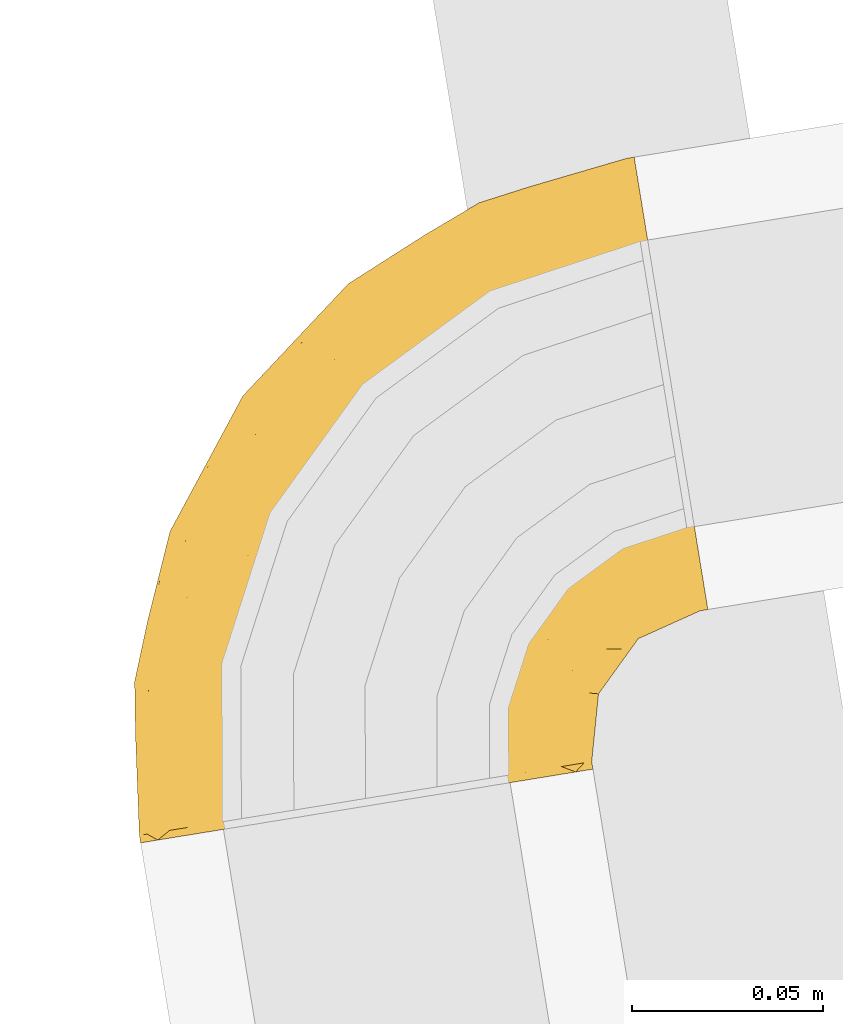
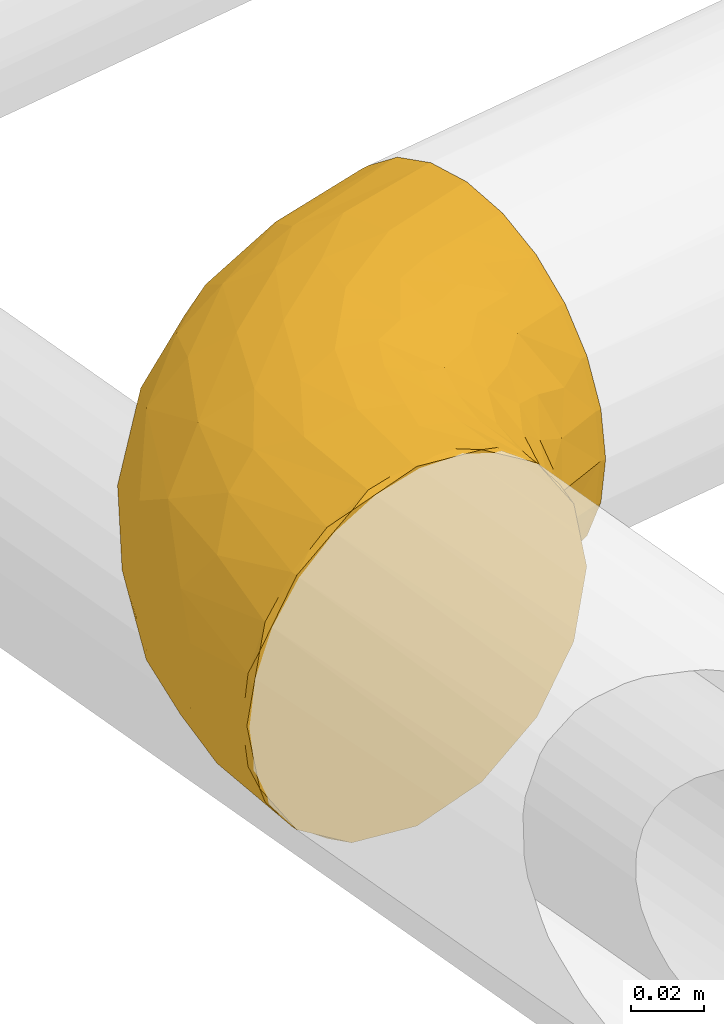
# One storey, part 13 of 46: 1 covering.
"""IFC2X3 building model written with IfcOpenShell, lengths in millimetres."""

from ifc_helpers import new_model, entity, si_unit, converted_unit, derived_unit, direction, frame, origin, origin_with_axes, place, context, subcontext, project, spatial, faceted_brep, material, type_object, element, save


model = new_model("IFC2X3")

# Units and contexts
model_context = context("Model", 3, precision=0.01, world=origin(), true_north=direction((6.12323399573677e-17, 1.0)))
plan_context = context("Plan", 3, precision=1e-05, world=origin_with_axes())
body_context = subcontext(model_context, "Body", "Model", "MODEL_VIEW")
ifc_project = project(units=[converted_unit("PLANEANGLEUNIT", "DEGREE", entity("IfcPositiveLengthMeasure", 0.0174532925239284), si_unit("PLANEANGLEUNIT", "RADIAN"), dimensions=[0, 0, 0, 0, 0, 0, 0]), si_unit("AREAUNIT", "SQUARE_METRE"), si_unit("LENGTHUNIT", "METRE", prefix="MILLI"), si_unit("MASSUNIT", "GRAM", prefix="KILO"), si_unit("POWERUNIT", "WATT"), si_unit("PRESSUREUNIT", "PASCAL", prefix="KILO"), si_unit("FORCEUNIT", "NEWTON", prefix="KILO"), si_unit("ELECTRICVOLTAGEUNIT", "VOLT"), si_unit("ELECTRICCURRENTUNIT", "AMPERE"), si_unit("THERMODYNAMICTEMPERATUREUNIT", "DEGREE_CELSIUS"), si_unit("TIMEUNIT", "SECOND"), si_unit("VOLUMEUNIT", "CUBIC_METRE"), derived_unit("LINEARVELOCITYUNIT", [(si_unit("LENGTHUNIT", "METRE"), 1), (si_unit("TIMEUNIT", "SECOND"), -1)]), derived_unit("VOLUMETRICFLOWRATEUNIT", [(si_unit("VOLUMEUNIT", "CUBIC_METRE"), 1), (si_unit("TIMEUNIT", "SECOND"), -1)]), derived_unit("THERMALTRANSMITTANCEUNIT", [(si_unit("POWERUNIT", "WATT"), 1), (si_unit("THERMODYNAMICTEMPERATUREUNIT", "KELVIN"), -1), (si_unit("AREAUNIT", "SQUARE_METRE"), -1)]), derived_unit("SOUNDPRESSUREUNIT", [(si_unit("PRESSUREUNIT", "PASCAL"), 1)])], contexts=[model_context, plan_context])

# Site, building, storey
site_placement = place(None, frame((-3.09682673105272e-06, 1.93776733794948e-05, 0.0), z_axis=(0.0, 0.0, 1.0), x_axis=(-0.160806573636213, 0.986985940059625, 0.0)))
site = spatial("IfcSite", under=ifc_project, at=site_placement, Name="Default", CompositionType="ELEMENT")
building_placement = place(site_placement, frame((0.0, 0.0, 0.0), z_axis=(0.0, 0.0, 1.0), x_axis=(1.0, -2.77555756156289e-17, 0.0)))
building = spatial("IfcBuilding", under=site, at=building_placement, Name="Bygning (endres i Project Information)", CompositionType="ELEMENT")
storey_placement = place(building_placement, frame((0.0, 0.0, 51360.0000000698), z_axis=(0.0, 0.0, 1.0), x_axis=(1.0, -2.77555756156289e-17, 0.0)))
storey = spatial("IfcBuildingStorey", under=building, at=storey_placement, Name="H01-Nivå D+0,36", CompositionType="ELEMENT", Elevation=51360.0000000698)

# Covering
ifc_material = material(Name="3700.001 Retur")
covering_type = type_object("IfcCoveringType", Name="Pipe Insulation:GLAVA avløpsisol. slange økende 19mm (15,5-25,0)", PredefinedType="INSULATION")
covering_placement = place(storey_placement, frame((999606.867642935, -347103.899155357, 3378.35472776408), z_axis=(0.0, 0.0, 1.0), x_axis=(1.0, -2.77555756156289e-17, 0.0)))
element("IfcCovering", 1, at=covering_placement, inside=storey, type_object=covering_type, material=ifc_material, Name="Pipe Insulation:GLAVA avløpsisol. slange økende 19mm (15,5-25,0)", ObjectType="Pipe Insulation:GLAVA avløpsisol. slange økende 19mm (15,5-25,0)", PredefinedType="INSULATION", context=body_context, shape_type="Brep", body=[
    faceted_brep([(0.0, 129.220951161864, 110.615636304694), (0.0, 138.961762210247, 104.107034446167), (0.0, 145.470364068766, 94.3662233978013), (0.0, 151.978965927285, 84.6254123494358), (0.0, 154.264482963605, 73.1353422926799), (0.0, 156.549999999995, 61.6452722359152), (0.0, 154.264482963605, 50.1552021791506), (0.0, 151.978965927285, 38.6651321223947), (0.0, 145.470364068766, 28.9243210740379), (0.0, 138.961762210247, 19.1835100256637), (0.0, 129.220951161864, 12.6749081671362), (0.0, 119.480140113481, 6.16630630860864), (0.0, 107.990070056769, 3.88078927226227), (0.0, 96.4999999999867, 1.5952722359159), (0.0, 85.0099299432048, 3.88078927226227), (0.0, 73.5198598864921, 6.16630630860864), (0.0, 63.7790488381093, 12.6749081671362), (0.0, 54.0382377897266, 19.1835100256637), (0.0, 47.5296359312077, 28.9243210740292), (0.0, 41.0210340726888, 38.6651321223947), (0.0, 38.7355170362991, 50.1552021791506), (0.0, 36.4499999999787, 61.6452722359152), (0.0, 38.7355170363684, 73.1353422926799), (0.0, 41.0210340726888, 84.6254123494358), (0.0, 47.5296359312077, 94.3662233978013), (0.0, 54.0382377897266, 104.107034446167), (0.0, 63.7790488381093, 110.615636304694), (0.0, 73.5198598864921, 117.124238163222), (0.0, 85.0099299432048, 119.409755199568), (0.0, 96.4999999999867, 121.695272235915), (0.0, 107.990070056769, 119.409755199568), (0.0, 119.480140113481, 117.124238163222), (154.503845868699, 0.0, 46.1031885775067), (155.449472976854, 0.0, 53.2859395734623), (156.550000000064, 0.0, 61.6452722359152), (155.526922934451, 0.0, 69.4163140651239), (154.503845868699, 0.0, 77.1873558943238), (151.504335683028, 0.0, 84.4288140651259), (148.504825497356, 0.0, 91.6702722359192), (143.733293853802, 0.0, 97.8886533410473), (138.961762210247, 0.0, 104.107034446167), (132.743381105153, 0.0, 108.87856608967), (126.52500000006, 0.0, 113.650097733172), (119.283541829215, 0.0, 116.649607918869), (112.042083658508, 0.0, 119.649118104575), (104.859332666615, 0.0, 120.59474521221), (96.500000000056, 0.0, 121.695272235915), (88.7289581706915, 0.0, 120.672195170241), (80.9579163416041, 0.0, 119.649118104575), (73.7164581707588, 0.0, 116.649607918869), (66.475000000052, 0.0, 113.650097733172), (60.2566188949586, 0.0, 108.87856608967), (54.0382377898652, 0.0, 104.107034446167), (49.2667061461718, 0.0, 97.8886533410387), (44.4951745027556, 0.0, 91.6702722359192), (41.4956643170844, 0.0, 84.4288140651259), (38.4961541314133, 0.0, 77.1873558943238), (37.5505270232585, 0.0, 70.0046048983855), (36.450000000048, 0.0, 61.6452722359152), (37.4730770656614, 0.0, 53.8742304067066), (38.4961541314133, 0.0, 46.1031885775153), (41.4956643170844, 0.0, 38.8617304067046), (44.4951745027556, 0.0, 31.6202722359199), (49.2667061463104, 0.0, 25.4018911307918), (54.0382377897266, 0.0, 19.1835100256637), (60.25661889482, 0.0, 14.4119783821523), (66.475000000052, 0.0, 9.64044673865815), (73.7164581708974, 0.0, 6.64093655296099), (80.9579163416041, 0.0, 3.64142636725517), (88.140667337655, 0.0, 2.6957992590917), (96.500000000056, 0.0, 1.5952722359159), (104.271041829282, 0.0, 2.61834930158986), (112.042083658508, 0.0, 3.64142636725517), (119.283541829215, 0.0, 6.64093655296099), (126.52500000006, 0.0, 9.64044673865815), (132.743381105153, 0.0, 14.4119783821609), (138.961762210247, 0.0, 19.1835100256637), (143.733293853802, 0.0, 25.4018911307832), (148.504825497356, 0.0, 31.6202722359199), (151.504335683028, 0.0, 38.8617304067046), (154.503845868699, 2.0, 77.1873558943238), (156.550000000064, 2.0, 61.6452722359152), (155.449472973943, 2.0, 70.0046049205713), (148.504825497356, 2.0, 91.6702722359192), (151.504335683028, 2.0, 84.4288140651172), (143.733293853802, 2.0, 97.8886533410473), (138.961762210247, 2.0, 104.107034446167), (126.52500000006, 2.0, 113.650097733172), (132.743381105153, 2.0, 108.87856608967), (112.042083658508, 2.0, 119.649118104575), (119.283541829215, 2.0, 116.649607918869), (104.271041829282, 2.0, 120.672195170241), (96.500000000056, 2.0, 121.695272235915), (88.1406673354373, 2.0, 120.594745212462), (85.8750124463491, 2.0, 120.296466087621), (80.9579163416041, 2.0, 119.649118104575), (66.475000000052, 2.0, 113.650097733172), (73.7164581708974, 2.0, 116.649607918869), (60.2566188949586, 2.0, 108.87856608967), (54.0382377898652, 2.0, 104.107034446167), (44.4951745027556, 2.0, 91.6702722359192), (49.2667061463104, 2.0, 97.8886533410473), (38.4961541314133, 2.0, 77.1873558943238), (41.4956643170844, 2.0, 84.4288140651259), (37.4730770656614, 2.0, 69.4163140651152), (36.450000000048, 2.0, 61.6452722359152), (38.4961541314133, 2.0, 46.1031885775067), (37.5505270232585, 2.0, 53.2859395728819), (44.4951745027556, 2.0, 31.6202722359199), (41.4956643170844, 2.0, 38.8617304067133), (49.2667061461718, 2.0, 25.4018911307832), (54.0382377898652, 2.0, 19.1835100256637), (66.475000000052, 2.0, 9.64044673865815), (60.2566188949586, 2.0, 14.4119783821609), (80.9579163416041, 2.0, 3.64142636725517), (73.7164581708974, 2.0, 6.64093655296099), (85.8750124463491, 2.0, 2.99407838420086), (88.7289581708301, 2.0, 2.61834930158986), (96.500000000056, 2.0, 1.5952722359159), (112.042083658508, 2.0, 3.64142636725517), (104.859332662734, 2.0, 2.69579925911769), (126.52500000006, 2.0, 9.64044673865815), (119.283541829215, 2.0, 6.64093655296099), (132.743381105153, 2.0, 14.4119783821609), (138.961762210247, 2.0, 19.1835100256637), (148.504825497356, 2.0, 31.6202722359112), (143.733293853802, 2.0, 25.4018911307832), (154.503845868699, 2.0, 46.1031885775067), (151.504335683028, 2.0, 38.8617304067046), (155.526922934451, 2.0, 53.8742304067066), (42.0004834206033, 151.283836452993, 61.6452722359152), (28.4061816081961, 153.288940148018, 72.4161841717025), (66.8176923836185, 140.648176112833, 74.9782039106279), (151.283836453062, 42.000483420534, 61.6452722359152), (153.28894006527, 28.4061821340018, 72.4161841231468), (138.43438143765, 65.664162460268, 83.1765166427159), (134.144438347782, 61.5566816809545, 94.222417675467), (148.119588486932, 38.9846814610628, 82.7275564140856), (142.732214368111, 29.8044788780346, 96.4252457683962), (103.18456402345, 62.1059187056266, 117.036665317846), (118.904536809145, 43.2804897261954, 113.961629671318), (116.677739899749, 69.8762938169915, 107.511164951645), (100.860670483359, 109.624365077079, 92.2961559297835), (122.592591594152, 93.8575830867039, 80.2573725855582), (94.5183470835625, 123.241838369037, 77.1652546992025), (94.1873799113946, 53.2047729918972, 120.687826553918), (79.0255659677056, 79.0255650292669, 119.935582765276), (78.4521059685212, 57.5457063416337, 121.695272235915), (130.738697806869, 39.4121865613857, 106.818747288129), (116.8582589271, 85.9725505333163, 98.0183861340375), (111.283353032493, 111.283353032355, 61.6452722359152), (79.2750000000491, 135.844226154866, 61.6452722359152), (135.844226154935, 79.2749999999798, 61.6452722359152), (109.248734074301, 33.1085428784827, 119.188453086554), (62.1059203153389, 103.184562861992, 117.036665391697), (88.1401035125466, 88.1401014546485, 115.120432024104), (85.1634733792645, 44.3739061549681, 121.695272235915), (91.8748407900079, 31.2021059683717, 121.695272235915), (145.293239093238, 57.3185911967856, 72.2819566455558), (39.4121875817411, 130.738696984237, 106.81874773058), (69.8762968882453, 116.677737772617, 107.511165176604), (61.5566846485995, 134.144435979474, 94.2224191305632), (38.9846813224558, 148.119588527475, 82.7275563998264), (2.0, 154.503845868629, 77.1873558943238), (2.0, 151.504335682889, 84.4288140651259), (2.0, 148.504825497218, 91.6702722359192), (29.8044794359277, 142.732213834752, 96.425246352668), (2.0, 143.733293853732, 97.8886533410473), (2.0, 138.961762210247, 104.107034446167), (2.0, 156.549999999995, 61.6452722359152), (2.0, 155.526922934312, 69.4163140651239), (43.2804911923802, 118.904535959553, 113.961629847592), (2.0, 126.524999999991, 113.650097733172), (2.0, 119.283541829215, 116.649607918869), (2.0, 112.042083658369, 119.649118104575), (2.0, 132.743381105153, 108.87856608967), (57.545706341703, 78.4521059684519, 121.695272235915), (67.9989061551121, 67.9989061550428, 121.695272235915), (53.2047737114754, 94.1873794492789, 120.687826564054), (33.1085435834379, 109.248733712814, 119.188453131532), (31.2021059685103, 91.8748407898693, 121.695272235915), (2.0, 96.4999999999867, 121.695272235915), (14.796615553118, 94.4732152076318, 121.695272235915), (44.3739061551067, 85.1634733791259, 121.695272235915), (76.0964222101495, 132.27747936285, 84.8749327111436), (2.0, 104.271041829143, 120.672195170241), (97.6322626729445, 97.632258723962, 105.757550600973), (94.4732153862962, 14.7966144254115, 121.695272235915), (26.3881555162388, 37.6410747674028, 92.8369498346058), (19.8213005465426, 34.0749834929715, 77.9055273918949), (30.495068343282, 28.0667583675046, 83.6303098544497), (79.6755573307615, 16.0282072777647, 119.642205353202), (77.7956794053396, 29.5164396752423, 120.072900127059), (41.3921957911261, 10.6116860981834, 87.5451559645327), (51.2599985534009, 19.0628082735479, 104.200031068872), (39.3569033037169, 21.7229416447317, 91.2304823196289), (66.4255659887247, 27.3599081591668, 116.12269221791), (61.7611370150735, 39.666857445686, 116.752099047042), (57.3979050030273, 28.2283372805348, 111.67835539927), (73.6921423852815, 42.1136087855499, 120.41189913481), (59.8559552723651, 53.275038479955, 119.181509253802), (11.1054589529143, 52.727726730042, 103.601291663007), (21.0489355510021, 51.2360169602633, 104.848123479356), (18.495195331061, 59.4763453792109, 110.652106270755), (2.0, 88.7289581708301, 120.672195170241), (2.0, 85.8750125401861, 120.2964661), (2.0, 80.9579163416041, 119.649118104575), (69.7763679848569, 16.1927958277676, 116.127021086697), (60.2362581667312, 14.693483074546, 110.514916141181), (35.2954551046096, 16.4668027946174, 76.4459559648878), (35.1684660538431, 31.5509659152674, 94.7858946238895), (35.474407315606, 42.5961267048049, 104.678316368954), (13.4287309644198, 41.1395158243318, 88.4690949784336), (2.0, 44.4951745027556, 91.6702722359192), (2.0, 41.4956643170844, 84.4288140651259), (2.0, 38.496154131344, 77.1873558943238), (54.7534216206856, 65.3961824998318, 120.478795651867), (29.8078963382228, 66.6759720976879, 116.647334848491), (44.0771599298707, 71.9580007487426, 120.30145030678), (27.0781928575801, 78.5096110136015, 120.044050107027), (29.7714545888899, 57.492677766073, 112.175020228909), (16.2064688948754, 82.4821351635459, 120.320962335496), (2.0, 66.4749999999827, 113.650097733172), (16.1340663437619, 67.9157141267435, 115.239613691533), (2.0, 54.0382377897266, 104.107034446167), (48.9737177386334, 37.4968626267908, 109.988197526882), (43.94479507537, 28.5809695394, 101.585160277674), (10.612500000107, 34.1422875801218, 61.6452722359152), (11.3511933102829, 37.5973450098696, 78.2976487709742), (40.6154890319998, 53.6128492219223, 113.641213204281), (39.3574666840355, 62.9326956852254, 117.104758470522), (2.0, 36.4499999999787, 61.6452722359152), (25.5297875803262, 25.5297875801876, 61.6452722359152), (19.2250000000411, 31.8345751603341, 61.6452722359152), (29.823229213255, 23.9458716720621, 72.4858684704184), (31.8345751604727, 19.2249999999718, 61.6452722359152), (2.0, 60.25661889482, 108.87856608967), (2.0, 49.2667061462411, 97.8886533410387), (2.0, 73.7164581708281, 116.649607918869), (2.0, 37.4730770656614, 69.4163140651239), (51.2599985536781, 19.0628082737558, 19.0905134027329), (41.3921957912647, 10.6116860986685, 35.7453885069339), (35.2954551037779, 16.4668027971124, 46.8445885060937), (79.6755573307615, 16.028207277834, 3.64833911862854), (94.4732153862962, 14.7966144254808, 1.5952722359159), (57.545706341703, 78.4521059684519, 1.5952722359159), (54.7534299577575, 65.3961907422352, 2.81174643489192), (44.0771578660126, 71.9580001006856, 2.98909452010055), (19.8213005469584, 34.0749834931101, 45.3850170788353), (26.3881555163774, 37.6410747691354, 30.4535946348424), (30.495068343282, 28.0667583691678, 39.6602346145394), (60.6680970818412, 14.4208560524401, 12.5170794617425), (70.3948101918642, 16.8876246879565, 6.8221522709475), (66.4255659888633, 27.3599081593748, 7.16785225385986), (73.6921423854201, 42.1136087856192, 2.87864533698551), (78.4327232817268, 30.0434207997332, 3.03824146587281), (91.8748407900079, 31.2021059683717, 1.5952722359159), (43.9447950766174, 28.5809695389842, 21.7053841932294), (35.4744037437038, 42.596120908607, 18.6122346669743), (48.9737177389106, 37.4968626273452, 13.3023469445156), (35.1684660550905, 31.5509659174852, 28.5046498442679), (39.3569033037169, 21.7229416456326, 32.0600621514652), (26.140148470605, 28.092672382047, 50.2206672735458), (67.9989061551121, 67.9989061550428, 1.5952722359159), (59.8559490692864, 53.2750496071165, 4.10903439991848), (11.3511933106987, 37.5973450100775, 44.9928956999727), (14.7966155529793, 94.4732152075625, 1.5952722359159), (2.0, 80.9579163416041, 3.64142636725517), (2.0, 85.8750125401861, 2.99407837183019), (2.0, 88.7289581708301, 2.61834930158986), (2.0, 96.4999999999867, 1.5952722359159), (40.6154761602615, 53.6128377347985, 9.64934103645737), (18.4951987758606, 59.4763438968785, 12.638438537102), (2.0, 54.0382377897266, 19.1835100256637), (16.134063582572, 67.9157049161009, 8.05093562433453), (2.0, 60.25661889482, 14.4119783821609), (2.0, 66.4749999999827, 9.64044673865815), (27.0781868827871, 78.5096049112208, 3.2464961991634), (29.8078959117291, 66.6759627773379, 6.64321344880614), (21.0489258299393, 51.2360176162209, 18.4424237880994), (29.7714523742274, 57.4926701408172, 11.1155292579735), (61.7611302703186, 39.66686114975, 6.53844704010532), (31.2021059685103, 91.8748407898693, 1.5952722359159), (16.2064688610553, 82.482134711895, 2.96958223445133), (44.3739061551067, 85.1634733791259, 1.5952722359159), (11.1054582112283, 52.7277319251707, 19.6892477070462), (13.428730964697, 41.1395158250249, 34.8214494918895), (2.0, 38.496154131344, 46.1031885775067), (2.0, 41.4956643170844, 38.8617304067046), (2.0, 44.4951745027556, 31.6202722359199), (57.3979048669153, 28.2283378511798, 11.6121889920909), (78.4521059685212, 57.5457063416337, 1.5952722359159), (2.0, 37.4730770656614, 53.8742304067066), (39.3574747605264, 62.9326857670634, 6.18578775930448), (2.0, 73.7164581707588, 6.64093655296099), (2.0, 49.2667061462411, 25.4018911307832), (85.1634733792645, 44.3739061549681, 1.5952722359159), (94.1873799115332, 53.2047729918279, 2.60271791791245), (61.5566846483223, 134.144435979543, 29.0681253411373), (85.9725557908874, 116.858254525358, 25.2721577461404), (69.8762968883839, 116.67773777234, 15.7793792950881), (38.9846813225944, 148.119588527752, 40.5629880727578), (2.0, 148.504825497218, 31.6202722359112), (2.0, 151.504335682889, 38.8617304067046), (2.0, 154.503845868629, 46.1031885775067), (109.624370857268, 100.86066465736, 30.9943890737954), (93.8575895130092, 122.59258682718, 43.0331721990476), (123.241842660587, 94.5183416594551, 46.1252902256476), (53.2047737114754, 94.1873794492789, 2.60271790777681), (79.0255659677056, 79.0255650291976, 3.35496170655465), (109.248734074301, 33.1085428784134, 4.10209138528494), (153.28894006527, 28.4061821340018, 50.874360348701), (148.119588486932, 38.9846814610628, 40.5629880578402), (142.73221436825, 29.8044788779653, 26.8652987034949), (130.738697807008, 39.4121865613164, 16.4717971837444), (134.144438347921, 61.5566816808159, 29.0681267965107), (140.648176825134, 66.8176902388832, 48.3123394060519), (118.904536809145, 43.2804897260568, 9.32891480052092), (116.677739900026, 69.8762938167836, 15.7793795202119), (2.0, 126.524999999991, 9.64044673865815), (39.4121875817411, 130.738696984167, 16.4717967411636), (43.2804911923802, 118.904535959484, 9.32891462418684), (33.1085435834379, 109.248733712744, 4.10209134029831), (62.1059203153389, 103.184562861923, 6.25387908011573), (2.0, 104.271041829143, 2.61834930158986), (2.0, 112.042083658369, 3.64142636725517), (103.18456402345, 62.105918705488, 6.25387915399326), (88.1401035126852, 88.1401014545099, 8.17011244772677), (28.4061816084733, 153.288940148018, 50.8743603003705), (2.0, 138.961762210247, 19.1835100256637), (29.8044794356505, 142.73221383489, 26.8652981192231), (57.3185899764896, 145.29323981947, 51.0085891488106), (2.0, 143.733293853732, 25.4018911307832), (2.0, 132.743381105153, 14.4119783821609), (65.6641633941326, 138.434380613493, 40.1140269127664), (132.277483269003, 76.0964168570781, 38.4156135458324), (97.6322626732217, 97.6322587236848, 17.5329938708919), (2.0, 119.283541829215, 6.64093655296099), (2.0, 155.526922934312, 53.8742304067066)], [[[0, 1, 2, 3, 4, 5, 6, 7, 8, 9, 10, 11, 12, 13, 14, 15, 16, 17, 18, 19, 20, 21, 22, 23, 24, 25, 26, 27, 28, 29, 30, 31]], [[32, 33, 34, 35, 36, 37, 38, 39, 40, 41, 42, 43, 44, 45, 46, 47, 48, 49, 50, 51, 52, 53, 54, 55, 56, 57, 58, 59, 60, 61, 62, 63, 64, 65, 66, 67, 68, 69, 70, 71, 72, 73, 74, 75, 76, 77, 78, 79]], [[80, 36, 35, 34, 81, 82]], [[83, 38, 37, 36, 80, 84]], [[39, 38, 83, 85, 86, 40]], [[87, 42, 41, 40, 86, 88]], [[89, 44, 43, 42, 87, 90]], [[45, 44, 89, 91, 92, 46]], [[48, 47, 46, 92, 93, 94, 95]], [[96, 50, 49, 48, 95, 97]], [[51, 50, 96, 98, 99, 52]], [[100, 54, 53, 52, 99, 101]], [[102, 56, 55, 54, 100, 103]], [[57, 56, 102, 104, 105, 58]], [[106, 60, 59, 58, 105, 107]], [[108, 62, 61, 60, 106, 109]], [[63, 62, 108, 110, 111, 64]], [[112, 66, 65, 64, 111, 113]], [[114, 68, 67, 66, 112, 115]], [[69, 68, 114, 116, 117, 118, 70]], [[119, 72, 71, 70, 118, 120]], [[121, 74, 73, 72, 119, 122]], [[75, 74, 121, 123, 124, 76]], [[125, 78, 77, 76, 124, 126]], [[127, 32, 79, 78, 125, 128]], [[33, 32, 127, 129, 81, 34]], [[130, 131, 132]], [[81, 133, 134]], [[135, 136, 137]], [[137, 136, 138]], [[137, 83, 84, 80]], [[139, 140, 141]], [[142, 143, 144]], [[145, 146, 147]], [[148, 86, 138]], [[138, 86, 85, 83]], [[143, 142, 149]], [[150, 151, 144]], [[143, 152, 150]], [[153, 92, 91, 89]], [[154, 146, 155]], [[87, 148, 140]], [[145, 147, 156, 157]], [[80, 134, 137]], [[158, 135, 137]], [[155, 146, 139]], [[148, 87, 88, 86]], [[159, 160, 161]], [[162, 163, 164, 165]], [[166, 165, 167, 168]], [[166, 162, 165]], [[131, 169, 170, 163]], [[159, 171, 160]], [[171, 172, 173, 174]], [[153, 139, 145]], [[159, 168, 175, 172]], [[144, 143, 150]], [[146, 176, 177, 147]], [[178, 179, 180]], [[179, 181, 182, 180]], [[178, 180, 183, 176]], [[178, 146, 154]], [[136, 149, 141]], [[131, 163, 162]], [[166, 159, 161]], [[184, 144, 132]], [[153, 140, 139]], [[179, 171, 174]], [[132, 144, 151]], [[134, 158, 137]], [[161, 160, 142]], [[146, 178, 176]], [[179, 178, 154]], [[179, 154, 171]], [[179, 174, 185, 181]], [[154, 155, 160]], [[172, 171, 159]], [[154, 160, 171]], [[160, 186, 142]], [[153, 157, 187, 92]], [[146, 145, 139]], [[153, 145, 157]], [[140, 89, 90, 87]], [[140, 153, 89]], [[141, 140, 148]], [[136, 141, 148]], [[141, 186, 155]], [[142, 144, 184]], [[186, 141, 149]], [[137, 138, 83]], [[148, 138, 136]], [[159, 166, 168]], [[162, 166, 161]], [[141, 155, 139]], [[160, 155, 186]], [[130, 132, 151]], [[184, 162, 161]], [[162, 184, 132]], [[142, 184, 161]], [[134, 80, 82, 81]], [[158, 134, 133]], [[133, 152, 158]], [[143, 158, 152]], [[158, 143, 135]], [[143, 136, 135]], [[132, 131, 162]], [[169, 131, 130]], [[143, 149, 136]], [[186, 149, 142]], [[188, 189, 190]], [[187, 157, 191]], [[157, 156, 192]], [[95, 187, 191]], [[193, 194, 195]], [[196, 197, 198]], [[199, 200, 197]], [[201, 202, 203]], [[182, 181, 204, 205, 206]], [[207, 208, 96]], [[209, 105, 104, 102]], [[188, 190, 210]], [[188, 210, 211]], [[187, 95, 94, 93, 92]], [[193, 102, 103, 100]], [[212, 213, 214, 215]], [[200, 177, 216]], [[202, 201, 212]], [[217, 218, 219]], [[183, 219, 218]], [[217, 203, 220]], [[221, 222, 223]], [[191, 96, 97, 95]], [[195, 210, 190]], [[224, 201, 203]], [[225, 211, 226]], [[227, 189, 228]], [[202, 188, 211]], [[195, 190, 209]], [[221, 182, 206]], [[223, 203, 217]], [[189, 188, 212]], [[200, 229, 225]], [[194, 100, 101, 99]], [[216, 218, 230]], [[208, 99, 98, 96]], [[199, 197, 196]], [[200, 147, 177]], [[228, 231, 227]], [[202, 212, 188]], [[228, 212, 215]], [[232, 189, 233]], [[209, 234, 235]], [[234, 209, 190]], [[105, 209, 235]], [[193, 209, 102]], [[232, 234, 189]], [[226, 210, 195]], [[211, 225, 229]], [[211, 210, 226]], [[211, 229, 220]], [[195, 194, 226]], [[198, 226, 194]], [[218, 216, 176]], [[216, 177, 176]], [[229, 200, 216]], [[180, 219, 183]], [[217, 220, 230]], [[218, 176, 183]], [[221, 219, 180]], [[223, 217, 219]], [[221, 223, 219]], [[223, 222, 236, 224]], [[224, 203, 223]], [[220, 203, 202]], [[211, 220, 202]], [[217, 230, 218]], [[220, 229, 230]], [[216, 230, 229]], [[201, 224, 237, 213]], [[212, 201, 213]], [[182, 221, 180]], [[221, 206, 238, 222]], [[189, 227, 233]], [[199, 196, 192]], [[191, 192, 207]], [[200, 199, 147]], [[147, 199, 156]], [[196, 207, 192]], [[200, 225, 197]], [[225, 226, 198]], [[157, 192, 191]], [[156, 199, 192]], [[207, 196, 208]], [[191, 207, 96]], [[198, 208, 196]], [[194, 99, 208]], [[225, 198, 197]], [[208, 198, 194]], [[194, 193, 100]], [[209, 193, 195]], [[189, 234, 190]], [[235, 234, 232]], [[228, 215, 239, 231]], [[189, 212, 228]], [[240, 111, 110, 108]], [[241, 108, 109, 106]], [[105, 235, 242]], [[243, 244, 114]], [[245, 246, 247]], [[248, 249, 250]], [[248, 233, 227]], [[251, 252, 112]], [[116, 114, 244, 118, 117]], [[253, 254, 255]], [[244, 243, 256]], [[253, 252, 251]], [[257, 258, 259]], [[243, 114, 115, 112]], [[258, 260, 249]], [[261, 250, 260]], [[262, 242, 235]], [[246, 263, 264]], [[231, 265, 227]], [[240, 108, 241]], [[266, 267, 268, 269, 270]], [[264, 259, 271]], [[272, 273, 274]], [[260, 257, 261]], [[274, 273, 275, 276]], [[277, 247, 278]], [[279, 280, 258]], [[254, 281, 264]], [[266, 282, 283]], [[283, 282, 277]], [[282, 284, 277]], [[272, 285, 273]], [[286, 279, 249]], [[286, 287, 288, 289]], [[259, 281, 290]], [[272, 280, 279]], [[263, 246, 245]], [[264, 291, 254]], [[286, 289, 285]], [[248, 286, 249]], [[260, 250, 249]], [[265, 231, 292, 287]], [[242, 250, 261]], [[262, 248, 250]], [[241, 242, 261]], [[242, 106, 107, 105]], [[262, 235, 232, 233]], [[248, 262, 233]], [[260, 258, 257]], [[279, 258, 249]], [[259, 258, 271]], [[290, 257, 259]], [[240, 261, 257]], [[264, 271, 246]], [[263, 291, 264]], [[280, 278, 293]], [[293, 246, 271]], [[278, 274, 277]], [[277, 284, 247]], [[284, 245, 247]], [[283, 276, 294, 267]], [[274, 278, 272]], [[283, 274, 276]], [[280, 272, 278]], [[272, 279, 285]], [[293, 278, 247]], [[258, 280, 271]], [[246, 293, 247]], [[271, 280, 293]], [[286, 285, 279]], [[285, 289, 295, 273]], [[283, 277, 274]], [[266, 283, 267]], [[265, 287, 286]], [[253, 255, 252]], [[254, 291, 296]], [[255, 254, 296]], [[243, 255, 256]], [[254, 253, 281]], [[256, 255, 296]], [[255, 243, 252]], [[290, 281, 253]], [[259, 264, 281]], [[243, 112, 252]], [[251, 112, 113, 111]], [[111, 240, 251]], [[290, 251, 240]], [[251, 290, 253]], [[290, 240, 257]], [[242, 241, 106]], [[240, 241, 261]], [[242, 262, 250]], [[286, 248, 265]], [[227, 265, 248]], [[297, 256, 296, 291]], [[298, 299, 300]], [[301, 302, 303, 304]], [[305, 306, 307]], [[308, 309, 245]], [[297, 310, 256]], [[311, 127, 312]], [[313, 314, 315]], [[311, 81, 129, 127]], [[316, 307, 152]], [[314, 317, 318]], [[313, 312, 125]], [[312, 127, 128, 125]], [[313, 125, 126, 124]], [[319, 320, 321]], [[314, 124, 123, 121]], [[317, 121, 122, 119]], [[306, 151, 150]], [[309, 291, 263, 245]], [[322, 321, 323]], [[314, 318, 315]], [[322, 323, 308]], [[322, 270, 324, 325]], [[326, 309, 327]], [[119, 310, 317]], [[304, 328, 301]], [[306, 305, 299]], [[320, 329, 330]], [[328, 331, 301]], [[330, 329, 332, 302]], [[320, 319, 333, 329]], [[331, 334, 301]], [[298, 301, 334]], [[307, 306, 150]], [[169, 130, 328]], [[297, 309, 326]], [[327, 309, 323]], [[330, 301, 298]], [[300, 323, 321]], [[310, 118, 244, 256]], [[150, 152, 307]], [[308, 245, 284, 282]], [[335, 307, 316]], [[133, 311, 316]], [[315, 318, 305]], [[309, 297, 291]], [[310, 297, 326]], [[310, 326, 317]], [[310, 119, 120, 118]], [[326, 327, 318]], [[121, 317, 314]], [[326, 318, 317]], [[318, 336, 305]], [[322, 282, 266, 270]], [[309, 308, 323]], [[322, 308, 282]], [[321, 325, 337, 319]], [[321, 322, 325]], [[300, 321, 320]], [[298, 300, 320]], [[300, 336, 327]], [[305, 307, 335]], [[336, 300, 299]], [[301, 330, 302]], [[320, 330, 298]], [[314, 313, 124]], [[312, 313, 315]], [[300, 327, 323]], [[318, 327, 336]], [[133, 316, 152]], [[335, 312, 315]], [[312, 335, 316]], [[305, 335, 315]], [[328, 304, 338, 169]], [[331, 328, 130]], [[130, 151, 331]], [[306, 331, 151]], [[331, 306, 334]], [[306, 298, 334]], [[316, 311, 312]], [[81, 311, 133]], [[306, 299, 298]], [[336, 299, 305]], [[170, 169, 5]], [[185, 174, 30]], [[185, 29, 181]], [[3, 2, 165]], [[3, 165, 164, 163]], [[3, 163, 4]], [[1, 167, 2]], [[5, 4, 170]], [[167, 1, 168]], [[4, 163, 170]], [[29, 185, 30]], [[31, 174, 173, 172]], [[175, 0, 172]], [[175, 1, 0]], [[31, 172, 0]], [[1, 175, 168]], [[167, 165, 2]], [[31, 30, 174]], [[204, 181, 29]], [[239, 215, 22]], [[239, 21, 231]], [[27, 26, 222]], [[27, 222, 238, 206]], [[27, 206, 28]], [[25, 236, 26]], [[29, 28, 204]], [[236, 25, 224]], [[28, 206, 205, 204]], [[21, 239, 22]], [[23, 215, 214, 213]], [[237, 24, 213]], [[237, 25, 24]], [[23, 213, 24]], [[25, 237, 224]], [[236, 222, 26]], [[23, 22, 215]], [[292, 231, 21]], [[14, 269, 268, 267]], [[269, 13, 270]], [[19, 18, 289]], [[19, 289, 288, 287]], [[19, 287, 20]], [[17, 295, 18]], [[21, 20, 292]], [[295, 17, 273]], [[20, 287, 292]], [[13, 269, 14]], [[15, 267, 294, 276]], [[275, 16, 276]], [[275, 17, 16]], [[15, 276, 16]], [[17, 275, 273]], [[295, 289, 18]], [[15, 14, 267]], [[324, 270, 13]], [[338, 304, 6]], [[338, 5, 169]], [[11, 10, 319]], [[11, 319, 337, 325]], [[11, 325, 12]], [[9, 333, 10]], [[13, 12, 324]], [[333, 9, 329]], [[12, 325, 324]], [[5, 338, 6]], [[7, 304, 303, 302]], [[332, 8, 302]], [[332, 9, 8]], [[7, 302, 8]], [[9, 332, 329]], [[333, 319, 10]], [[7, 6, 304]]]),
])

save(model, "model.ifc")
